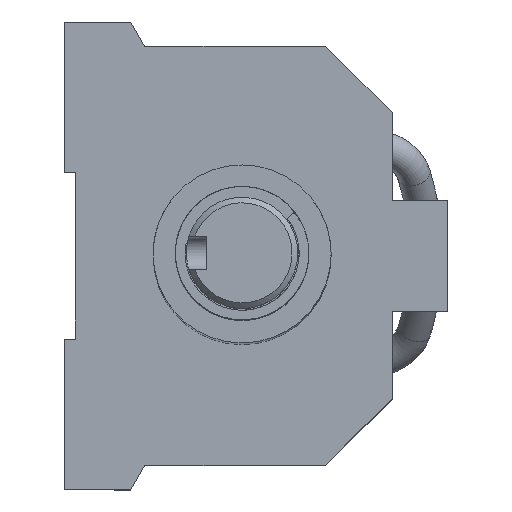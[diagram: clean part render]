
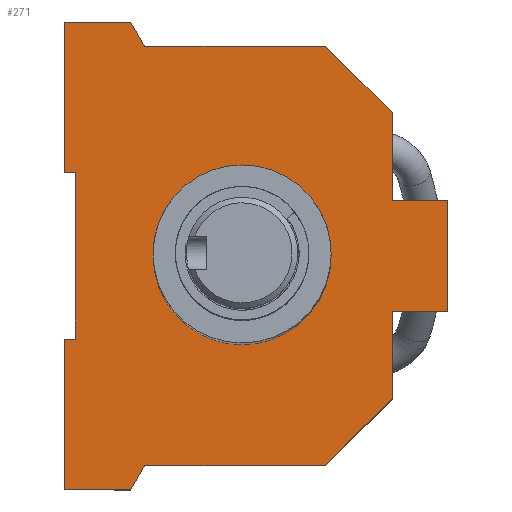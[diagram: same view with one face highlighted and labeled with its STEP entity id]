
A CAD part, top view. The second image highlights one B-rep face of the part: STEP entity #271.
In plain terms, the highlighted planar face has unit normal (0, 0, 1).
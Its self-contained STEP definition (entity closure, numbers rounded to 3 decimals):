
#157=FACE_BOUND('',#445,.T.);
#158=FACE_BOUND('',#446,.T.);
#271=ADVANCED_FACE('',(#157,#158),#341,.T.);
#341=PLANE('',#1331);
#445=EDGE_LOOP('',(#701,#702,#703,#704,#705,#706,#707,#708,#709,#710,#711,
#712,#713,#714,#715,#716,#717,#718));
#446=EDGE_LOOP('',(#719));
#555=CIRCLE('',#1330,8.);
#701=ORIENTED_EDGE('',*,*,#1041,.F.);
#702=ORIENTED_EDGE('',*,*,#1049,.T.);
#703=ORIENTED_EDGE('',*,*,#1050,.F.);
#704=ORIENTED_EDGE('',*,*,#1051,.F.);
#705=ORIENTED_EDGE('',*,*,#1052,.F.);
#706=ORIENTED_EDGE('',*,*,#1053,.F.);
#707=ORIENTED_EDGE('',*,*,#1054,.F.);
#708=ORIENTED_EDGE('',*,*,#1055,.F.);
#709=ORIENTED_EDGE('',*,*,#1056,.F.);
#710=ORIENTED_EDGE('',*,*,#1057,.F.);
#711=ORIENTED_EDGE('',*,*,#1047,.F.);
#712=ORIENTED_EDGE('',*,*,#1058,.F.);
#713=ORIENTED_EDGE('',*,*,#1059,.F.);
#714=ORIENTED_EDGE('',*,*,#1060,.T.);
#715=ORIENTED_EDGE('',*,*,#1061,.F.);
#716=ORIENTED_EDGE('',*,*,#1062,.F.);
#717=ORIENTED_EDGE('',*,*,#1063,.F.);
#718=ORIENTED_EDGE('',*,*,#1064,.F.);
#719=ORIENTED_EDGE('',*,*,#1065,.F.);
#912=VERTEX_POINT('',#3037);
#913=VERTEX_POINT('',#3038);
#918=VERTEX_POINT('',#3049);
#919=VERTEX_POINT('',#3051);
#920=VERTEX_POINT('',#3055);
#921=VERTEX_POINT('',#3057);
#922=VERTEX_POINT('',#3059);
#923=VERTEX_POINT('',#3061);
#924=VERTEX_POINT('',#3063);
#925=VERTEX_POINT('',#3065);
#926=VERTEX_POINT('',#3067);
#927=VERTEX_POINT('',#3069);
#928=VERTEX_POINT('',#3072);
#929=VERTEX_POINT('',#3074);
#930=VERTEX_POINT('',#3076);
#931=VERTEX_POINT('',#3078);
#932=VERTEX_POINT('',#3080);
#933=VERTEX_POINT('',#3082);
#934=VERTEX_POINT('',#3085);
#1041=EDGE_CURVE('',#912,#913,#1150,.T.);
#1047=EDGE_CURVE('',#918,#919,#1156,.T.);
#1049=EDGE_CURVE('',#912,#920,#1158,.T.);
#1050=EDGE_CURVE('',#921,#920,#1159,.T.);
#1051=EDGE_CURVE('',#922,#921,#1160,.T.);
#1052=EDGE_CURVE('',#923,#922,#1161,.T.);
#1053=EDGE_CURVE('',#924,#923,#1162,.T.);
#1054=EDGE_CURVE('',#925,#924,#1163,.T.);
#1055=EDGE_CURVE('',#926,#925,#1164,.T.);
#1056=EDGE_CURVE('',#927,#926,#1165,.T.);
#1057=EDGE_CURVE('',#919,#927,#1166,.T.);
#1058=EDGE_CURVE('',#928,#918,#1167,.T.);
#1059=EDGE_CURVE('',#929,#928,#1168,.T.);
#1060=EDGE_CURVE('',#929,#930,#1169,.T.);
#1061=EDGE_CURVE('',#931,#930,#1170,.T.);
#1062=EDGE_CURVE('',#932,#931,#1171,.T.);
#1063=EDGE_CURVE('',#933,#932,#1172,.T.);
#1064=EDGE_CURVE('',#913,#933,#1173,.T.);
#1065=EDGE_CURVE('',#934,#934,#555,.T.);
#1150=LINE('',#3036,#1224);
#1156=LINE('',#3050,#1230);
#1158=LINE('',#3054,#1232);
#1159=LINE('',#3056,#1233);
#1160=LINE('',#3058,#1234);
#1161=LINE('',#3060,#1235);
#1162=LINE('',#3062,#1236);
#1163=LINE('',#3064,#1237);
#1164=LINE('',#3066,#1238);
#1165=LINE('',#3068,#1239);
#1166=LINE('',#3070,#1240);
#1167=LINE('',#3071,#1241);
#1168=LINE('',#3073,#1242);
#1169=LINE('',#3075,#1243);
#1170=LINE('',#3077,#1244);
#1171=LINE('',#3079,#1245);
#1172=LINE('',#3081,#1246);
#1173=LINE('',#3083,#1247);
#1224=VECTOR('',#1533,1.);
#1230=VECTOR('',#1541,1.);
#1232=VECTOR('',#1545,1.);
#1233=VECTOR('',#1546,1.);
#1234=VECTOR('',#1547,1.);
#1235=VECTOR('',#1548,1.);
#1236=VECTOR('',#1549,1.);
#1237=VECTOR('',#1550,1.);
#1238=VECTOR('',#1551,1.);
#1239=VECTOR('',#1552,1.);
#1240=VECTOR('',#1553,1.);
#1241=VECTOR('',#1554,1.);
#1242=VECTOR('',#1555,1.);
#1243=VECTOR('',#1556,1.);
#1244=VECTOR('',#1557,1.);
#1245=VECTOR('',#1558,1.);
#1246=VECTOR('',#1559,1.);
#1247=VECTOR('',#1560,1.);
#1330=AXIS2_PLACEMENT_3D('',#3084,#1561,#1562);
#1331=AXIS2_PLACEMENT_3D('',#3086,#1563,#1564);
#1533=DIRECTION('',(0.,-1.,0.));
#1541=DIRECTION('',(-1.,0.,0.));
#1545=DIRECTION('',(-0.707,0.707,0.));
#1546=DIRECTION('',(1.,0.,0.));
#1547=DIRECTION('',(0.5,-0.866,0.));
#1548=DIRECTION('',(1.,0.,0.));
#1549=DIRECTION('',(0.,1.,0.));
#1550=DIRECTION('',(-1.,0.,0.));
#1551=DIRECTION('',(0.,1.,0.));
#1552=DIRECTION('',(1.,0.,0.));
#1553=DIRECTION('',(0.,1.,0.));
#1554=DIRECTION('',(-0.5,-0.866,0.));
#1555=DIRECTION('',(-1.,0.,0.));
#1556=DIRECTION('',(0.707,0.707,0.));
#1557=DIRECTION('',(0.,-1.,0.));
#1558=DIRECTION('',(-1.,0.,0.));
#1559=DIRECTION('',(0.,-1.,0.));
#1560=DIRECTION('',(1.,0.,0.));
#1561=DIRECTION('',(0.,0.,1.));
#1562=DIRECTION('',(0.,1.,0.));
#1563=DIRECTION('',(0.,0.,1.));
#1564=DIRECTION('',(0.,1.,0.));
#3036=CARTESIAN_POINT('',(34.5,20.,34.5));
#3037=CARTESIAN_POINT('',(34.5,32.835,34.5));
#3038=CARTESIAN_POINT('',(34.5,25.,34.5));
#3049=CARTESIAN_POINT('',(11.,-1.,34.5));
#3050=CARTESIAN_POINT('',(23.,-1.,34.5));
#3051=CARTESIAN_POINT('',(5.,-1.,34.5));
#3054=CARTESIAN_POINT('',(32.667,34.667,34.5));
#3055=CARTESIAN_POINT('',(28.5,38.835,34.5));
#3056=CARTESIAN_POINT('',(23.,38.835,34.5));
#3057=CARTESIAN_POINT('',(12.25,38.835,34.5));
#3058=CARTESIAN_POINT('',(23.093,20.054,34.5));
#3059=CARTESIAN_POINT('',(11.,41.,34.5));
#3060=CARTESIAN_POINT('',(23.,41.,34.5));
#3061=CARTESIAN_POINT('',(5.,41.,34.5));
#3062=CARTESIAN_POINT('',(5.,20.,34.5));
#3063=CARTESIAN_POINT('',(5.,27.5,34.5));
#3064=CARTESIAN_POINT('',(23.,27.5,34.5));
#3065=CARTESIAN_POINT('',(6.,27.5,34.5));
#3066=CARTESIAN_POINT('',(6.,20.,34.5));
#3067=CARTESIAN_POINT('',(6.,12.5,34.5));
#3068=CARTESIAN_POINT('',(23.,12.5,34.5));
#3069=CARTESIAN_POINT('',(5.,12.5,34.5));
#3070=CARTESIAN_POINT('',(5.,20.,34.5));
#3071=CARTESIAN_POINT('',(23.093,19.946,34.5));
#3072=CARTESIAN_POINT('',(12.25,1.165,34.5));
#3073=CARTESIAN_POINT('',(23.,1.165,34.5));
#3074=CARTESIAN_POINT('',(28.5,1.165,34.5));
#3075=CARTESIAN_POINT('',(32.667,5.333,34.5));
#3076=CARTESIAN_POINT('',(34.5,7.165,34.5));
#3077=CARTESIAN_POINT('',(34.5,20.,34.5));
#3078=CARTESIAN_POINT('',(34.5,15.,34.5));
#3079=CARTESIAN_POINT('',(31.5,15.,34.5));
#3080=CARTESIAN_POINT('',(39.5,15.,34.5));
#3081=CARTESIAN_POINT('',(39.5,20.,34.5));
#3082=CARTESIAN_POINT('',(39.5,25.,34.5));
#3083=CARTESIAN_POINT('',(31.5,25.,34.5));
#3084=CARTESIAN_POINT('',(21.,20.,34.5));
#3085=CARTESIAN_POINT('',(21.,28.,34.5));
#3086=CARTESIAN_POINT('',(23.,20.,34.5));
